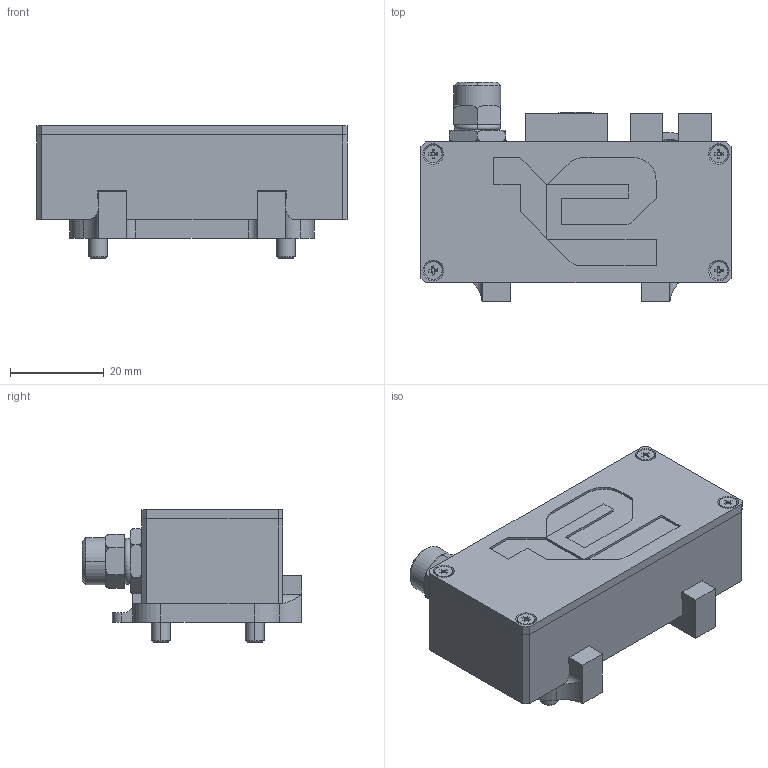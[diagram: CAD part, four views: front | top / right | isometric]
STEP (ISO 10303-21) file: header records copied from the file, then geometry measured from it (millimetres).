
FILE_DESCRIPTION (( 'STEP AP214' ), '1' );
FILE_NAME ('astorino_armIO_box.STEP', '2024-05-02T08:26:58', ( '' ), ( '' ), 'SwSTEP 2.0', 'SolidWorks 2021', '' );
FILE_SCHEMA (( 'AUTOMOTIVE_DESIGN' ));
Length unit declared in the file: millimetre
Products named in the file (1): astorino_armIO_box
Bounding box: 66 x 46.7 x 28.29 mm (x, y, z)
Surface area: 15516.7 mm2 (no closed solid volume)
Topology: 0 solids, 18 shells, 362 faces, 1094 edges, 758 vertices
Faces by surface type: plane 232, cylinder 71, cone 38, torus 20, bspline 1
Entity records: 17704 total; most frequent: CARTESIAN_POINT 4015, DIRECTION 1952, ORIENTED_EDGE 1881, EDGE_CURVE 1094, VERTEX_POINT 758, VECTOR 748, LINE 748, AXIS2_PLACEMENT_3D 602
